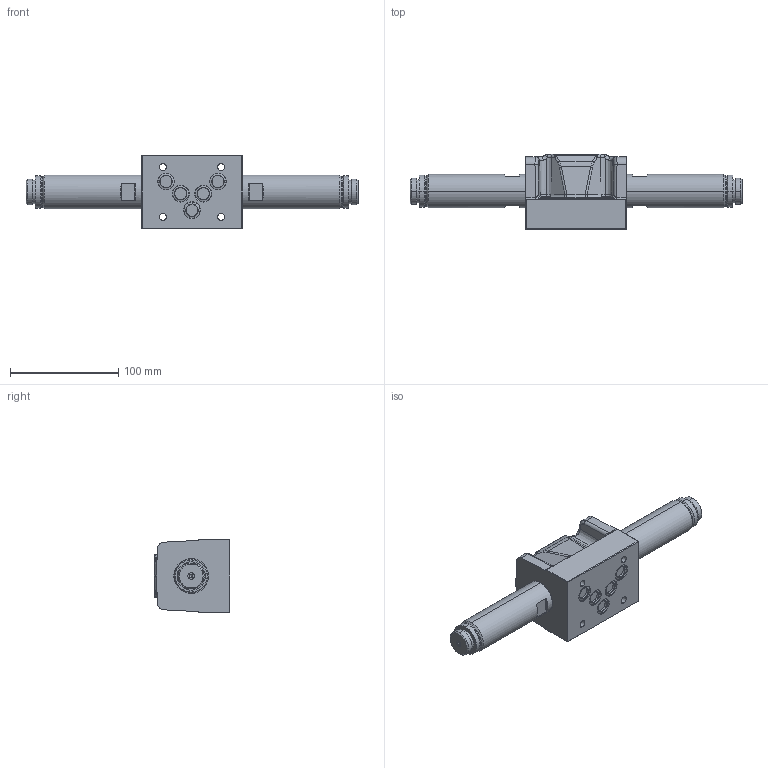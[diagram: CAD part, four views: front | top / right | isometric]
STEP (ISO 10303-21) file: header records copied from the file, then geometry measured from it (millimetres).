
FILE_DESCRIPTION (( 'STEP AP214' ), '1' );
FILE_NAME ('WDMFA10-4_3.STEP', '2015-10-22T06:57:18', ( '' ), ( '' ), 'SwSTEP 2.0', 'SolidWorks 2014', '' );
FILE_SCHEMA (( 'AUTOMOTIVE_DESIGN' ));
Length unit declared in the file: millimetre
Products named in the file (2): WDMFA10-4_3
Bounding box: 307 x 69.5 x 68 mm (x, y, z)
Volume: 507207.9 mm3; surface area: 59093.7 mm2
Topology: 1 solids, 1 shells, 484 faces, 1121 edges, 667 vertices
Faces by surface type: cylinder 169, plane 137, bspline 110, cone 41, torus 27
Entity records: 22685 total; most frequent: CARTESIAN_POINT 7361, ORIENTED_EDGE 2218, DIRECTION 1884, EDGE_CURVE 1109, AXIS2_PLACEMENT_3D 709, VERTEX_POINT 667, EDGE_LOOP 532, UNCERTAINTY_MEASURE_WITH_UNIT 485
